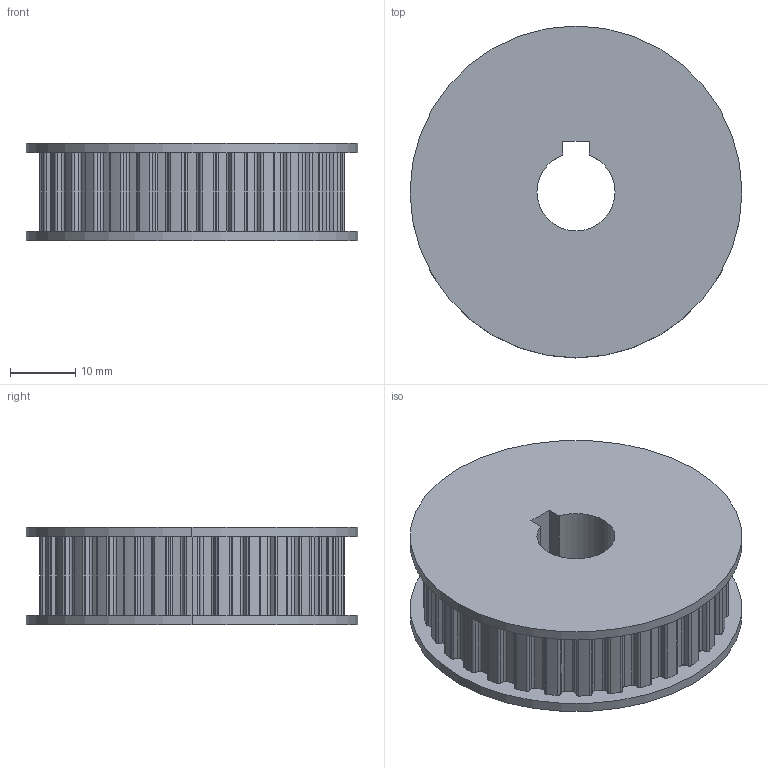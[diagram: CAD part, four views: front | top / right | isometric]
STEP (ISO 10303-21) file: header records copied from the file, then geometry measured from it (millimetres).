
FILE_DESCRIPTION (( 'STEP AP203' ), '1' );
FILE_NAME ('627.001.015.STEP', '2013-01-29T10:06:42', ( 'Alusic' ), ( 'Alusic' ), 'SwSTEP 2.0', 'SolidWorks 2011', '' );
FILE_SCHEMA (( 'CONFIG_CONTROL_DESIGN' ));
Length unit declared in the file: millimetre
Products named in the file (1): 627.001.015
Bounding box: 51 x 51 x 15 mm (x, y, z)
Volume: 24136.1 mm3; surface area: 7979.1 mm2
Topology: 1 solids, 1 shells, 279 faces, 825 edges, 550 vertices
Faces by surface type: cylinder 182, plane 97
Entity records: 9564 total; most frequent: DIRECTION 1749, CARTESIAN_POINT 1655, ORIENTED_EDGE 1650, EDGE_CURVE 825, AXIS2_PLACEMENT_3D 644, VERTEX_POINT 550, LINE 461, VECTOR 461
